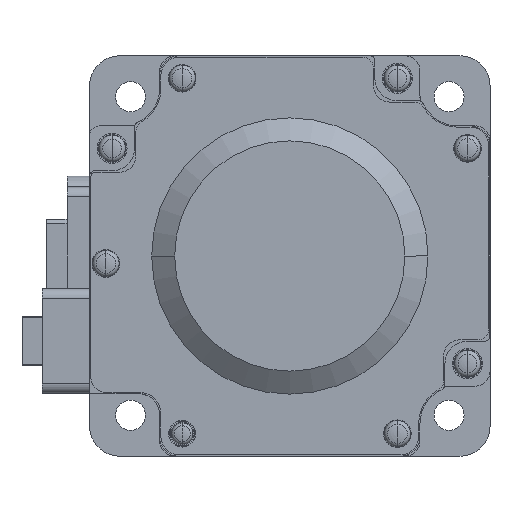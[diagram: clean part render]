
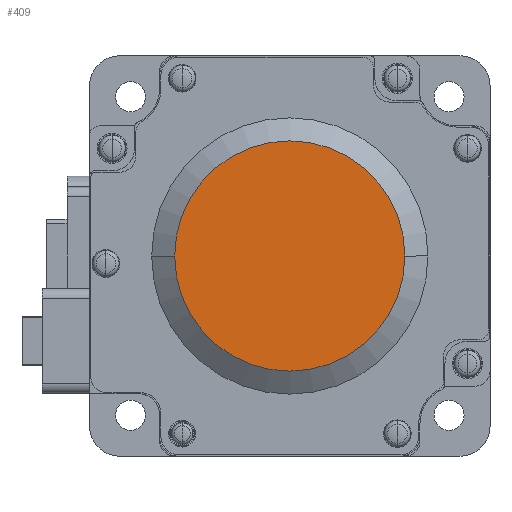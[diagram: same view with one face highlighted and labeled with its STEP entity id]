
A CAD part, left-side view. The second image highlights one B-rep face of the part: STEP entity #409.
In plain terms, the highlighted planar face has unit normal (-1, 0, 0).
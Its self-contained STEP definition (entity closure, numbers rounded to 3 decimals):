
#409 = ADVANCED_FACE( '', ( #1515 ), #1516, .T. );
#1515 = FACE_OUTER_BOUND( '', #3084, .T. );
#1516 = PLANE( '', #3085 );
#3084 = EDGE_LOOP( '', ( #6575, #6576 ) );
#3085 = AXIS2_PLACEMENT_3D( '', #6577, #6578, #6579 );
#6575 = ORIENTED_EDGE( '', *, *, #10186, .T. );
#6576 = ORIENTED_EDGE( '', *, *, #10955, .T. );
#6577 = CARTESIAN_POINT( '', ( -115.2, 11.5, 0. ) );
#6578 = DIRECTION( '', ( -1., 0., 0. ) );
#6579 = DIRECTION( '', ( 0., 1., 0. ) );
#10186 = EDGE_CURVE( '', #12241, #12245, #12247, .T. );
#10955 = EDGE_CURVE( '', #12245, #12241, #13525, .T. );
#12241 = VERTEX_POINT( '', #15554 );
#12245 = VERTEX_POINT( '', #15559 );
#12247 = CIRCLE( '', #15562, 23. );
#13525 = CIRCLE( '', #17340, 23. );
#15554 = CARTESIAN_POINT( '', ( -115.2, 23., 0. ) );
#15559 = CARTESIAN_POINT( '', ( -115.2, -23., 0. ) );
#15562 = AXIS2_PLACEMENT_3D( '', #20002, #20003, #20004 );
#17340 = AXIS2_PLACEMENT_3D( '', #21309, #21310, #21311 );
#20002 = CARTESIAN_POINT( '', ( -115.2, 0., 0. ) );
#20003 = DIRECTION( '', ( -1., 0., 0. ) );
#20004 = DIRECTION( '', ( 0., 1., 0. ) );
#21309 = CARTESIAN_POINT( '', ( -115.2, 0., 0. ) );
#21310 = DIRECTION( '', ( -1., 0., 0. ) );
#21311 = DIRECTION( '', ( 0., 1., 0. ) );
